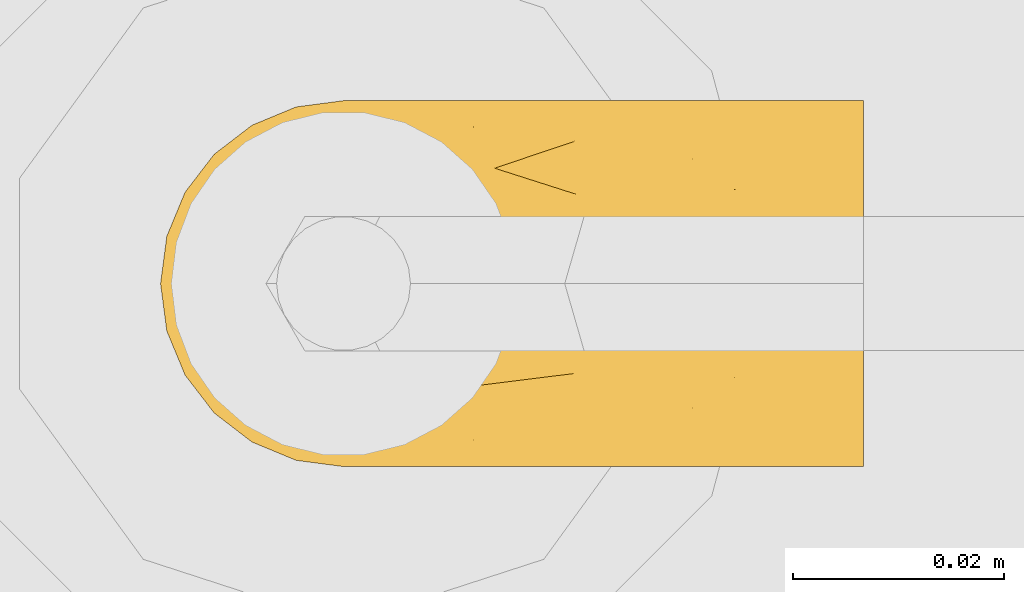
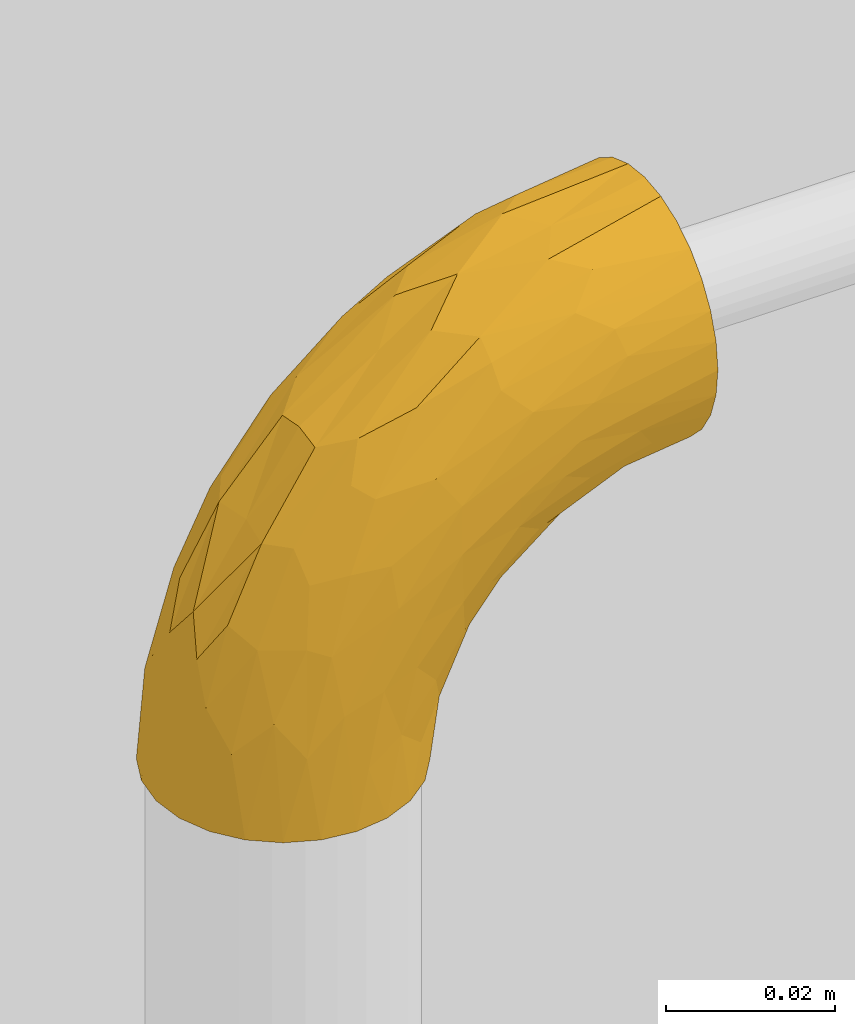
# One storey, part 8 of 32: 1 covering.
"""IFC2X3 building model written with IfcOpenShell, lengths in metres."""

from ifc_helpers import new_model, entity, si_unit, converted_unit, derived_unit, direction, frame, origin, place, context, subcontext, project, spatial, faceted_brep, material, type_object, element, save


model = new_model("IFC2X3")

# Units and contexts
model_context = context("Model", 3, precision=1e-05, world=origin(), true_north=direction((6.123031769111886e-17, 1.0)))
body_context = subcontext(model_context, "Body", "Model", "MODEL_VIEW")
ifc_project = project(units=[si_unit("LENGTHUNIT", "METRE"), si_unit("AREAUNIT", "SQUARE_METRE"), si_unit("VOLUMEUNIT", "CUBIC_METRE"), converted_unit("PLANEANGLEUNIT", "DEGREE", entity("IfcPlaneAngleMeasure", 0.017453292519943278), si_unit("PLANEANGLEUNIT", "RADIAN"), dimensions=[0, 0, 0, 0, 0, 0, 0]), si_unit("MASSUNIT", "GRAM", prefix="KILO"), derived_unit("MASSDENSITYUNIT", [(si_unit("MASSUNIT", "GRAM", prefix="KILO"), 1), (si_unit("LENGTHUNIT", "METRE"), -3)]), derived_unit("IONCONCENTRATIONUNIT", [(si_unit("MASSUNIT", "GRAM", prefix="KILO"), 1), (si_unit("LENGTHUNIT", "METRE"), -3)]), derived_unit("MOMENTOFINERTIAUNIT", [(si_unit("LENGTHUNIT", "METRE"), 4)]), si_unit("TIMEUNIT", "SECOND"), si_unit("FREQUENCYUNIT", "HERTZ"), si_unit("THERMODYNAMICTEMPERATUREUNIT", "DEGREE_CELSIUS"), derived_unit("THERMALTRANSMITTANCEUNIT", [(si_unit("MASSUNIT", "GRAM", prefix="KILO"), 1), (si_unit("THERMODYNAMICTEMPERATUREUNIT", "KELVIN"), -1), (si_unit("TIMEUNIT", "SECOND"), -3)]), derived_unit("THERMALCONDUCTANCEUNIT", [(si_unit("MASSUNIT", "GRAM", prefix="KILO"), 1), (si_unit("THERMODYNAMICTEMPERATUREUNIT", "KELVIN"), -1), (si_unit("TIMEUNIT", "SECOND"), -3), (si_unit("LENGTHUNIT", "METRE"), 1)]), derived_unit("VOLUMETRICFLOWRATEUNIT", [(si_unit("LENGTHUNIT", "METRE", prefix="DECI"), 3), (si_unit("TIMEUNIT", "SECOND"), -1)]), derived_unit("MASSFLOWRATEUNIT", [(si_unit("MASSUNIT", "GRAM", prefix="KILO"), 1), (si_unit("TIMEUNIT", "SECOND"), -1)]), derived_unit("ROTATIONALFREQUENCYUNIT", [(si_unit("TIMEUNIT", "SECOND"), -1)]), si_unit("ELECTRICCURRENTUNIT", "AMPERE"), si_unit("ELECTRICVOLTAGEUNIT", "VOLT"), si_unit("POWERUNIT", "WATT"), si_unit("FORCEUNIT", "NEWTON", prefix="KILO"), si_unit("ILLUMINANCEUNIT", "LUX"), si_unit("LUMINOUSFLUXUNIT", "LUMEN"), si_unit("LUMINOUSINTENSITYUNIT", "CANDELA"), si_unit("ENERGYUNIT", "JOULE"), derived_unit("USERDEFINED", [(si_unit("MASSUNIT", "GRAM", prefix="KILO"), -1), (si_unit("LENGTHUNIT", "METRE"), -2), (si_unit("TIMEUNIT", "SECOND"), 3), (si_unit("LUMINOUSFLUXUNIT", "LUMEN"), 1)]), derived_unit("USERDEFINED", [(si_unit("MASSUNIT", "GRAM", prefix="KILO"), 1), (si_unit("TIMEUNIT", "SECOND"), -3), (si_unit("LENGTHUNIT", "METRE"), 3), (si_unit("ELECTRICCURRENTUNIT", "AMPERE"), -2)]), derived_unit("SOUNDPOWERUNIT", [(si_unit("MASSUNIT", "GRAM", prefix="KILO"), 1), (si_unit("TIMEUNIT", "SECOND"), -3), (si_unit("LENGTHUNIT", "METRE"), 2)]), derived_unit("SOUNDPRESSUREUNIT", [(si_unit("MASSUNIT", "GRAM", prefix="KILO"), 1), (si_unit("LENGTHUNIT", "METRE"), -1), (si_unit("TIMEUNIT", "SECOND"), -2)]), derived_unit("LINEARVELOCITYUNIT", [(si_unit("LENGTHUNIT", "METRE"), 1), (si_unit("TIMEUNIT", "SECOND"), -1)]), si_unit("PRESSUREUNIT", "PASCAL"), derived_unit("USERDEFINED", [(si_unit("MASSUNIT", "GRAM", prefix="KILO"), 1), (si_unit("LENGTHUNIT", "METRE"), -2), (si_unit("TIMEUNIT", "SECOND"), -2)]), derived_unit("LINEARFORCEUNIT", [(si_unit("MASSUNIT", "GRAM", prefix="KILO"), 1), (si_unit("TIMEUNIT", "SECOND"), -2)]), derived_unit("PLANARFORCEUNIT", [(si_unit("MASSUNIT", "GRAM", prefix="KILO"), 1), (si_unit("LENGTHUNIT", "METRE"), -1), (si_unit("TIMEUNIT", "SECOND"), -2)]), derived_unit("SPECIFICHEATCAPACITYUNIT", [(si_unit("THERMODYNAMICTEMPERATUREUNIT", "KELVIN"), -1), (si_unit("LENGTHUNIT", "METRE"), 2), (si_unit("TIMEUNIT", "SECOND"), -2)]), derived_unit("HEATFLUXDENSITYUNIT", [(si_unit("MASSUNIT", "GRAM", prefix="KILO"), 1), (si_unit("TIMEUNIT", "SECOND"), -3)]), derived_unit("HEATINGVALUEUNIT", [(si_unit("LENGTHUNIT", "METRE"), 2), (si_unit("TIMEUNIT", "SECOND"), -2)]), derived_unit("VAPORPERMEABILITYUNIT", [(si_unit("LENGTHUNIT", "METRE"), -1), (si_unit("TIMEUNIT", "SECOND"), 1)]), derived_unit("DYNAMICVISCOSITYUNIT", [(si_unit("MASSUNIT", "GRAM", prefix="KILO"), 1), (si_unit("TIMEUNIT", "SECOND"), -1), (si_unit("LENGTHUNIT", "METRE"), -1)]), derived_unit("THERMALEXPANSIONCOEFFICIENTUNIT", [(si_unit("THERMODYNAMICTEMPERATUREUNIT", "KELVIN"), -1)]), derived_unit("MODULUSOFELASTICITYUNIT", [(si_unit("MASSUNIT", "GRAM", prefix="KILO"), 1), (si_unit("LENGTHUNIT", "METRE"), -1), (si_unit("TIMEUNIT", "SECOND"), -2)]), derived_unit("ISOTHERMALMOISTURECAPACITYUNIT", [(si_unit("MASSUNIT", "GRAM", prefix="KILO"), -1), (si_unit("LENGTHUNIT", "METRE"), 3)]), derived_unit("MOISTUREDIFFUSIVITYUNIT", [(si_unit("TIMEUNIT", "SECOND"), -1), (si_unit("LENGTHUNIT", "METRE"), 2)]), derived_unit("MASSPERLENGTHUNIT", [(si_unit("MASSUNIT", "GRAM", prefix="KILO"), 1), (si_unit("LENGTHUNIT", "METRE"), -1)]), derived_unit("THERMALRESISTANCEUNIT", [(si_unit("MASSUNIT", "GRAM", prefix="KILO"), -1), (si_unit("TIMEUNIT", "SECOND"), 3), (si_unit("THERMODYNAMICTEMPERATUREUNIT", "KELVIN"), 1)]), derived_unit("ACCELERATIONUNIT", [(si_unit("LENGTHUNIT", "METRE"), 1), (si_unit("TIMEUNIT", "SECOND"), -2)]), derived_unit("ANGULARVELOCITYUNIT", [(si_unit("TIMEUNIT", "SECOND"), -1), (si_unit("PLANEANGLEUNIT", "RADIAN"), 1)]), derived_unit("LINEARSTIFFNESSUNIT", [(si_unit("MASSUNIT", "GRAM", prefix="KILO"), 1), (si_unit("TIMEUNIT", "SECOND"), -2)]), derived_unit("WARPINGCONSTANTUNIT", [(si_unit("LENGTHUNIT", "METRE"), 6)]), derived_unit("LINEARMOMENTUNIT", [(si_unit("MASSUNIT", "GRAM", prefix="KILO"), 1), (si_unit("LENGTHUNIT", "METRE"), 1), (si_unit("TIMEUNIT", "SECOND"), -2)]), derived_unit("TORQUEUNIT", [(si_unit("MASSUNIT", "GRAM", prefix="KILO"), 1), (si_unit("LENGTHUNIT", "METRE"), 2), (si_unit("TIMEUNIT", "SECOND"), -2)])], contexts=[model_context])

# Site, building, storey
site_placement = place(None, origin())
site = spatial("IfcSite", under=ifc_project, at=site_placement, Name="Default", CompositionType="ELEMENT")
building_placement = place(site_placement, origin())
building = spatial("IfcBuilding", under=site, at=building_placement, CompositionType="ELEMENT")
storey_placement = place(building_placement, origin())
storey = spatial("IfcBuildingStorey", under=building, at=storey_placement, Name="Niveau 0", CompositionType="ELEMENT", Elevation=-1.949160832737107e-14)

# Covering
ifc_material = material(Name="Matériau du rendu 255-255-255")
covering_type = type_object("IfcCoveringType", Name="Isolation des canalisations:Par défaut", PredefinedType="INSULATION")
covering_placement = place(storey_placement, frame((-14.644246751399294, 2.7665812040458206, 2.3835426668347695)))
element("IfcCovering", 1, at=covering_placement, inside=storey, type_object=covering_type, material=ifc_material, Name="Isolation des canalisations:Par défaut", ObjectType="Isolation des canalisations:Par défaut", PredefinedType="INSULATION", context=body_context, shape_type="Brep", body=[
    faceted_brep([(0.06824527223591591, 0.032507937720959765, 0.061715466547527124), (0.06824527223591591, 0.029760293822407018, 0.06446206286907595), (0.06824527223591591, 0.026470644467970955, 0.0665282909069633), (0.06824527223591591, 0.02280380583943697, 0.0678107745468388), (0.06824527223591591, 0.018945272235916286, 0.06824527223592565), (0.06824527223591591, 0.015082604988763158, 0.06780983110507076), (0.06824527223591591, 0.011414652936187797, 0.06652576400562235), (0.06824527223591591, 0.008125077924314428, 0.06445793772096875), (0.06824527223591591, 0.005378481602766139, 0.06171029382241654), (0.06824527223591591, 0.0033122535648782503, 0.058420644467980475), (0.06824527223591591, 0.002029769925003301, 0.054753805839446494), (0.06824527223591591, 0.0015952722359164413, 0.05089527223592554), (0.06824527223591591, 0.0020307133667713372, 0.04703260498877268), (0.06824527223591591, 0.00331478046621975, 0.04336465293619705), (0.06824527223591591, 0.005382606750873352, 0.04007507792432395), (0.06824527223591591, 0.008130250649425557, 0.03732848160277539), (0.06824527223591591, 0.01141990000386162, 0.03526225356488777), (0.06824527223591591, 0.015086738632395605, 0.03397976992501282), (0.06824527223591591, 0.018945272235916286, 0.03354527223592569), (0.06824527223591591, 0.022807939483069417, 0.03398071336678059), (0.06824527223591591, 0.026475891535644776, 0.035264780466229), (0.06824527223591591, 0.029765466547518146, 0.0373326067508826), (0.06824527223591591, 0.03251206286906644, 0.04008025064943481), (0.06824527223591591, 0.03457829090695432, 0.04336990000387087), (0.06824527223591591, 0.035860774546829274, 0.04703673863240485), (0.06824527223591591, 0.03629527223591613, 0.05089527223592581), (0.06824527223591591, 0.03585983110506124, 0.054757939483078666), (0.06824527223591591, 0.034575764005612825, 0.0584258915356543), (0.035704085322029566, 0.014454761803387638, 0.0015952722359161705), (0.03397081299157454, 0.010270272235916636, 0.0015952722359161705), (0.03121357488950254, 0.006676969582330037, 0.0015952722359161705), (0.027620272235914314, 0.003919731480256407, 0.0015952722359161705), (0.023435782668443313, 0.0021864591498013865, 0.0015952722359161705), (0.01894527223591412, 0.0015952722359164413, 0.0015952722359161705), (0.014454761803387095, 0.0021864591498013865, 0.0015952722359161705), (0.010270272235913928, 0.003919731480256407, 0.0015952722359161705), (0.006676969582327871, 0.006676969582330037, 0.0015952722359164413), (0.0039197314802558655, 0.010270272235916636, 0.0015952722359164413), (0.0021864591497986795, 0.014454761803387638, 0.0015952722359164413), (0.0015952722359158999, 0.018945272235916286, 0.0015952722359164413), (0.0021864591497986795, 0.02343578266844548, 0.0015952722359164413), (0.0039197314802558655, 0.027620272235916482, 0.0015952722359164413), (0.006676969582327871, 0.03121357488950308, 0.0015952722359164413), (0.010270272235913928, 0.033970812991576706, 0.0015952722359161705), (0.014454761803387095, 0.03570408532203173, 0.0015952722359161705), (0.01894527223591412, 0.03629527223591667, 0.0015952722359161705), (0.023435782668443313, 0.03570408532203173, 0.0015952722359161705), (0.027620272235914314, 0.033970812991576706, 0.0015952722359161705), (0.03121357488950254, 0.03121357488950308, 0.0015952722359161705), (0.03397081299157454, 0.027620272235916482, 0.0015952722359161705), (0.035704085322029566, 0.02343578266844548, 0.0015952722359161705), (0.03629527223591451, 0.01894527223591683, 0.0015952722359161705), (0.024367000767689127, 0.03133458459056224, 0.04461060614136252), (0.040880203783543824, 0.0324510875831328, 0.05520607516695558), (0.031240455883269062, 0.03378706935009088, 0.04662716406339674), (0.005317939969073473, 0.022149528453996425, 0.02263520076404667), (0.004958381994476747, 0.018945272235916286, 0.018502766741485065), (0.006668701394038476, 0.018945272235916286, 0.027101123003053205), (0.009728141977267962, 0.028816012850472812, 0.026428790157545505), (0.015760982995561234, 0.03068263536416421, 0.03474610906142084), (0.014206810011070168, 0.03274319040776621, 0.027248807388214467), (0.004776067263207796, 0.02524054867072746, 0.017647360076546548), (0.005987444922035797, 0.029200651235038, 0.0130046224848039), (0.03372303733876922, 0.03568226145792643, 0.04295128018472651), (0.03338490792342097, 0.03629527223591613, 0.036455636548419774), (0.024904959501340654, 0.03597727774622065, 0.031412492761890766), (0.0520130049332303, 0.030752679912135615, 0.061445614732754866), (0.033276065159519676, 0.029890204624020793, 0.053712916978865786), (0.017585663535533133, 0.03581412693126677, 0.018347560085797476), (0.016675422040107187, 0.034392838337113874, 0.026339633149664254), (0.036692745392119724, 0.02316390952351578, 0.059711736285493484), (0.052045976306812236, 0.02435364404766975, 0.06535510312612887), (0.040907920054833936, 0.02745100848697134, 0.059929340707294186), (0.010004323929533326, 0.03226292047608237, 0.017676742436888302), (0.04937897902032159, 0.03629527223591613, 0.04714253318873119), (0.04138194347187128, 0.03629527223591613, 0.04179908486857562), (0.013063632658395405, 0.03478404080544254, 0.013167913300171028), (0.0130975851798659, 0.023959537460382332, 0.037689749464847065), (0.021058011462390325, 0.02277267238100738, 0.048058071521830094), (0.02491877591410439, 0.026249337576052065, 0.050099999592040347), (0.05549234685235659, 0.018945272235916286, 0.06570855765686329), (0.015418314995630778, 0.027542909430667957, 0.03837572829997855), (0.008103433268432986, 0.024608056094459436, 0.028042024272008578), (0.05599549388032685, 0.027861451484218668, 0.06459915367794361), (0.04273942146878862, 0.018945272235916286, 0.06317184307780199), (0.05979152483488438, 0.03629527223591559, 0.04921371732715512), (0.05151216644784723, 0.03591493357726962, 0.051792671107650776), (0.05592114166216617, 0.033311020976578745, 0.05932311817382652), (0.024527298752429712, 0.03484866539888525, 0.0369675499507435), (0.0564246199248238, 0.035026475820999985, 0.0561420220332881), (0.02004693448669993, 0.0330855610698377, 0.03623295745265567), (0.043903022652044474, 0.03479750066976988, 0.052418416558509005), (0.028041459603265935, 0.03629527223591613, 0.02845860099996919), (0.022698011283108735, 0.03629527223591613, 0.02046156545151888), (0.05881212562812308, 0.03629527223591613, 0.0490189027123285), (0.03192801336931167, 0.018945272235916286, 0.05594789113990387), (0.02253776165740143, 0.028838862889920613, 0.045751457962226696), (0.013892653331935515, 0.018945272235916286, 0.03791253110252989), (0.02062682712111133, 0.03629527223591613, 0.010049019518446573), (0.02111660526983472, 0.018945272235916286, 0.048723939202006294), (0.06012681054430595, 0.028741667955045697, 0.03562046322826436), (0.025545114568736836, 0.035509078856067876, 0.012762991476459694), (0.038163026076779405, 0.029714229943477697, 0.020812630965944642), (0.0336986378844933, 0.030278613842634, 0.012286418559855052), (0.03585312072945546, 0.03257014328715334, 0.02251144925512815), (0.04758380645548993, 0.035962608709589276, 0.042603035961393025), (0.05793604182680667, 0.035754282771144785, 0.04539970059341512), (0.05179104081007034, 0.03464339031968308, 0.04014164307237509), (0.02744829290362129, 0.03590367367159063, 0.022043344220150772), (0.031246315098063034, 0.033786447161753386, 0.017602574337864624), (0.05558856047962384, 0.021988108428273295, 0.03122407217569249), (0.06109218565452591, 0.023813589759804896, 0.033449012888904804), (0.059961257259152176, 0.018945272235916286, 0.03132557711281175), (0.04550906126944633, 0.03344556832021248, 0.034228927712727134), (0.041544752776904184, 0.035636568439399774, 0.03727571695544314), (0.02949372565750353, 0.03321547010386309, 0.008887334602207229), (0.03852252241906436, 0.022634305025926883, 0.014357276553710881), (0.038514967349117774, 0.018945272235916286, 0.009879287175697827), (0.03659242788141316, 0.021964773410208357, 0.007585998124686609), (0.05797141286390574, 0.03195826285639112, 0.03799786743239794), (0.05019700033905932, 0.030390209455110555, 0.03304464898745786), (0.03603849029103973, 0.025154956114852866, 0.009229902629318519), (0.038175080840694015, 0.02650292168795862, 0.016770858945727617), (0.06050425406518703, 0.03413176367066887, 0.041766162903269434), (0.04525391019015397, 0.02725796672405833, 0.02673949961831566), (0.04141450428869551, 0.0314395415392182, 0.02745178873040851), (0.05227027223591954, 0.018945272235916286, 0.029264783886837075), (0.04415845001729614, 0.02282584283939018, 0.02324953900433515), (0.04057576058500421, 0.018945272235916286, 0.01757027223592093), (0.034070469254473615, 0.03537608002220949, 0.028875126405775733), (0.05464264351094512, 0.02543466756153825, 0.03189092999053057), (0.04949521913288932, 0.023656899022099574, 0.02826597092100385), (0.04642301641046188, 0.018945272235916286, 0.023417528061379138), (0.03870099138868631, 0.0338502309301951, 0.029179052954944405), (0.033698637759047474, 0.00761193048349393, 0.012286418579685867), (0.060126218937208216, 0.00915422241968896, 0.03561656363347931), (0.05796574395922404, 0.0059365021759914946, 0.03799129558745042), (0.036592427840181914, 0.01592577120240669, 0.007585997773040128), (0.047594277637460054, 0.0019307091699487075, 0.042592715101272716), (0.04138194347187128, 0.0015952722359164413, 0.04179908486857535), (0.04154972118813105, 0.002261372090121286, 0.037246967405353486), (0.05019606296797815, 0.007507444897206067, 0.03303691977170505), (0.04141450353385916, 0.006451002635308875, 0.027451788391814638), (0.03870907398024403, 0.004039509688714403, 0.02918968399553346), (0.035853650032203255, 0.005316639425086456, 0.02252106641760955), (0.061095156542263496, 0.014084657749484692, 0.033447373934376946), (0.03407046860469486, 0.0025144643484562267, 0.028875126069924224), (0.027448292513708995, 0.0019868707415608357, 0.022043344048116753), (0.031246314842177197, 0.004104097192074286, 0.017602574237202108), (0.025545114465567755, 0.002381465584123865, 0.012762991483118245), (0.020626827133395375, 0.0015952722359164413, 0.010049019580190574), (0.06049677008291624, 0.003761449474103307, 0.041759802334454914), (0.05793180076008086, 0.002137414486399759, 0.04539407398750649), (0.05177761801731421, 0.003249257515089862, 0.04013105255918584), (0.036038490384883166, 0.012735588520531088, 0.009229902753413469), (0.029493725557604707, 0.004675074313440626, 0.008887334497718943), (0.04552472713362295, 0.004452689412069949, 0.03422554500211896), (0.038522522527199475, 0.015256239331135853, 0.01435727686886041), (0.04948512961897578, 0.014235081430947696, 0.028258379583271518), (0.04523640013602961, 0.01064723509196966, 0.02671264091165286), (0.04414337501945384, 0.015070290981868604, 0.023230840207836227), (0.05558905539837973, 0.01590572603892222, 0.031223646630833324), (0.05465211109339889, 0.012461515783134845, 0.031892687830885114), (0.03817508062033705, 0.011387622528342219, 0.016770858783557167), (0.05979152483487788, 0.0015952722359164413, 0.049213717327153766), (0.05881212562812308, 0.0015952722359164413, 0.0490189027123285), (0.04937897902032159, 0.0015952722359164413, 0.04714253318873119), (0.022698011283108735, 0.0015952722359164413, 0.020461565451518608), (0.028041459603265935, 0.0015952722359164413, 0.02845860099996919), (0.03815555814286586, 0.008173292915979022, 0.02080538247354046), (0.03338490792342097, 0.0015952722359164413, 0.036455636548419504), (0.014201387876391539, 0.005144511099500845, 0.027228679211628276), (0.01576489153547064, 0.007214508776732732, 0.03476363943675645), (0.009728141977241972, 0.009074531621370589, 0.026428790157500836), (0.005317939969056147, 0.01574101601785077, 0.022635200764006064), (0.008103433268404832, 0.013282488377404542, 0.028042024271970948), (0.013097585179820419, 0.013931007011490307, 0.03768974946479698), (0.040915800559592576, 0.01043424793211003, 0.05992974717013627), (0.05204814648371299, 0.013532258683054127, 0.06535408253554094), (0.03668245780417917, 0.014723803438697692, 0.05970534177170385), (0.04088029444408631, 0.005435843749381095, 0.05520108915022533), (0.03122945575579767, 0.004097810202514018, 0.04660600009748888), (0.04392259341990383, 0.0030906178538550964, 0.05242173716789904), (0.0337578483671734, 0.002206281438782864, 0.04297076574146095), (0.01758332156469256, 0.0020764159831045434, 0.01834045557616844), (0.016675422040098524, 0.003497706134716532, 0.02633963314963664), (0.020027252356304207, 0.004809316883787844, 0.03621599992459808), (0.013061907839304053, 0.0031070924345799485, 0.013166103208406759), (0.004776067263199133, 0.01264999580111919, 0.01764736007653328), (0.05599323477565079, 0.010023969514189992, 0.06459558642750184), (0.005987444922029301, 0.008689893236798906, 0.013004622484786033), (0.015398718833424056, 0.010351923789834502, 0.038351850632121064), (0.010004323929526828, 0.005627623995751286, 0.017676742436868), (0.055922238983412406, 0.004576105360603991, 0.05931818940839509), (0.05201579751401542, 0.007133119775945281, 0.061441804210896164), (0.051515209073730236, 0.001974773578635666, 0.05178953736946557), (0.04090335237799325, 0.007727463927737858, 0.05783699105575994), (0.02436700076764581, 0.006555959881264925, 0.044610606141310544), (0.056683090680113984, 0.002851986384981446, 0.05616681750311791), (0.021070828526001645, 0.015114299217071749, 0.048069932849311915), (0.024916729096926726, 0.01163263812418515, 0.05009283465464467), (0.024899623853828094, 0.0019147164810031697, 0.031417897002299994), (0.024551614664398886, 0.003047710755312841, 0.037018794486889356), (0.022503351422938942, 0.00904990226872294, 0.04571403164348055), (0.031537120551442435, 0.009268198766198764, 0.05365558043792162)], [[[0, 1, 2, 3, 4, 5, 6, 7, 8, 9, 10, 11, 12, 13, 14, 15, 16, 17, 18, 19, 20, 21, 22, 23, 24, 25, 26, 27]], [[28, 29, 30, 31, 32, 33, 34, 35, 36, 37, 38, 39, 40, 41, 42, 43, 44, 45, 46, 47, 48, 49, 50, 51]], [[52, 53, 54]], [[55, 56, 57]], [[58, 59, 60]], [[61, 58, 62]], [[63, 64, 65]], [[61, 41, 40]], [[66, 53, 67]], [[68, 69, 65]], [[70, 71, 72]], [[62, 73, 42]], [[63, 74, 75, 64]], [[45, 44, 68]], [[69, 68, 76]], [[77, 78, 79]], [[42, 73, 43]], [[80, 4, 3]], [[58, 81, 59]], [[61, 55, 82]], [[71, 2, 83]], [[84, 71, 70]], [[83, 2, 1]], [[3, 71, 80]], [[71, 84, 80]], [[77, 55, 57]], [[2, 71, 3]], [[0, 66, 1]], [[26, 25, 85]], [[63, 86, 74]], [[66, 87, 53]], [[62, 42, 41]], [[63, 65, 88]], [[26, 86, 89]], [[40, 56, 55]], [[73, 60, 76]], [[83, 72, 71]], [[90, 59, 52]], [[40, 55, 61]], [[87, 66, 0]], [[1, 66, 83]], [[87, 0, 27]], [[72, 83, 66]], [[91, 89, 86]], [[53, 87, 91]], [[54, 53, 91]], [[67, 53, 52]], [[63, 54, 91]], [[54, 88, 90]], [[91, 87, 89]], [[65, 64, 92, 93]], [[86, 63, 91]], [[86, 85, 94, 74]], [[26, 85, 86]], [[70, 72, 79]], [[78, 95, 70]], [[67, 79, 72]], [[59, 81, 96]], [[40, 39, 56]], [[77, 57, 97]], [[82, 55, 77]], [[87, 27, 89]], [[26, 89, 27]], [[81, 82, 77]], [[58, 61, 82]], [[68, 65, 93]], [[88, 65, 69]], [[68, 93, 98, 45]], [[76, 68, 44]], [[90, 88, 69]], [[54, 63, 88]], [[60, 90, 69]], [[54, 90, 52]], [[59, 90, 60]], [[82, 81, 58]], [[77, 79, 81]], [[96, 81, 79]], [[44, 43, 76]], [[73, 76, 43]], [[61, 62, 41]], [[73, 62, 58]], [[76, 60, 69]], [[60, 73, 58]], [[70, 79, 78]], [[95, 84, 70]], [[67, 52, 96]], [[78, 97, 99]], [[66, 67, 72]], [[97, 78, 77]], [[78, 99, 95]], [[67, 96, 79]], [[59, 96, 52]], [[100, 21, 20]], [[93, 101, 98]], [[102, 103, 104]], [[98, 101, 46]], [[105, 106, 107]], [[108, 109, 101]], [[110, 111, 112]], [[92, 108, 93]], [[113, 114, 107]], [[47, 115, 48]], [[116, 117, 118]], [[49, 48, 103]], [[119, 100, 120]], [[100, 119, 21]], [[121, 122, 116]], [[119, 120, 113]], [[103, 122, 121]], [[115, 103, 48]], [[119, 107, 123]], [[123, 23, 22]], [[118, 51, 50]], [[23, 106, 24]], [[106, 74, 94]], [[46, 101, 47]], [[115, 101, 109]], [[123, 106, 23]], [[124, 125, 120]], [[19, 18, 112]], [[119, 22, 21]], [[110, 112, 126]], [[111, 20, 19]], [[114, 75, 105]], [[116, 127, 128]], [[122, 127, 116]], [[64, 129, 92]], [[106, 94, 24]], [[111, 100, 20]], [[109, 129, 104]], [[130, 124, 120]], [[130, 120, 100]], [[120, 125, 113]], [[130, 110, 131]], [[102, 124, 122]], [[121, 118, 50]], [[24, 94, 85, 25]], [[128, 117, 116]], [[127, 122, 124]], [[131, 124, 130]], [[131, 132, 127]], [[119, 123, 22]], [[106, 123, 107]], [[108, 101, 93]], [[113, 107, 119]], [[129, 133, 104]], [[125, 133, 113]], [[113, 133, 114]], [[129, 64, 114]], [[75, 74, 105]], [[92, 129, 108]], [[109, 108, 129]], [[46, 45, 98]], [[111, 110, 130]], [[126, 131, 110]], [[124, 131, 127]], [[111, 130, 100]], [[112, 111, 19]], [[50, 49, 121]], [[103, 121, 49]], [[101, 115, 47]], [[103, 115, 109]], [[116, 118, 121]], [[51, 118, 117]], [[133, 125, 104]], [[114, 133, 129]], [[102, 104, 125]], [[103, 109, 104]], [[124, 102, 125]], [[103, 102, 122]], [[114, 64, 75]], [[106, 105, 74]], [[107, 114, 105]], [[132, 131, 126]], [[132, 128, 127]], [[30, 29, 134]], [[135, 15, 136]], [[51, 117, 137]], [[138, 139, 140]], [[141, 135, 136]], [[142, 143, 144]], [[145, 112, 17]], [[146, 147, 148]], [[149, 150, 32]], [[151, 152, 153]], [[134, 29, 154]], [[155, 31, 30]], [[15, 135, 16]], [[149, 32, 31]], [[156, 141, 136]], [[157, 117, 128]], [[158, 159, 160]], [[126, 112, 161]], [[161, 145, 162]], [[155, 149, 31]], [[154, 28, 137]], [[14, 151, 136]], [[15, 14, 136]], [[145, 16, 135]], [[135, 141, 162]], [[14, 13, 151]], [[13, 12, 152]], [[146, 144, 143]], [[143, 140, 146]], [[159, 163, 160]], [[12, 11, 164, 165]], [[12, 165, 152]], [[138, 152, 166]], [[141, 159, 162]], [[155, 134, 148]], [[112, 18, 17]], [[167, 147, 168]], [[144, 169, 142]], [[145, 135, 162]], [[156, 136, 153]], [[141, 142, 159]], [[169, 159, 142]], [[157, 160, 163]], [[157, 128, 160]], [[166, 152, 165]], [[154, 137, 157]], [[157, 163, 154]], [[158, 132, 126]], [[126, 161, 158]], [[152, 151, 13]], [[136, 151, 153]], [[168, 146, 170]], [[149, 147, 167]], [[156, 142, 141]], [[140, 156, 153]], [[143, 142, 156]], [[140, 153, 138]], [[170, 146, 140]], [[148, 147, 149]], [[146, 168, 147]], [[150, 149, 167]], [[150, 33, 32]], [[158, 161, 162]], [[159, 158, 162]], [[160, 132, 158]], [[112, 145, 161]], [[16, 145, 17]], [[134, 154, 163]], [[29, 28, 154]], [[134, 155, 30]], [[149, 155, 148]], [[51, 137, 28]], [[157, 137, 117]], [[140, 143, 156]], [[144, 146, 148]], [[148, 134, 144]], [[169, 134, 163]], [[134, 169, 144]], [[159, 169, 163]], [[139, 138, 166]], [[139, 170, 140]], [[152, 138, 153]], [[160, 128, 132]], [[171, 172, 173]], [[174, 175, 176]], [[177, 178, 179]], [[180, 181, 182]], [[183, 182, 181]], [[184, 33, 150, 167]], [[171, 185, 186]], [[184, 187, 34]], [[174, 38, 188]], [[177, 189, 178]], [[36, 190, 37]], [[176, 175, 191]], [[192, 36, 35]], [[37, 190, 188]], [[174, 176, 57]], [[193, 8, 194]], [[183, 166, 195]], [[175, 174, 188]], [[195, 166, 165, 164]], [[56, 174, 57]], [[7, 194, 8]], [[196, 197, 180]], [[179, 178, 84]], [[9, 193, 198]], [[8, 193, 9]], [[190, 192, 173]], [[179, 95, 199]], [[189, 6, 178]], [[193, 180, 182]], [[6, 189, 7]], [[5, 80, 178]], [[177, 179, 200]], [[201, 170, 183]], [[177, 194, 189]], [[37, 188, 38]], [[178, 6, 5]], [[194, 177, 196]], [[164, 11, 10]], [[187, 192, 35]], [[167, 201, 184]], [[194, 7, 189]], [[180, 193, 194]], [[198, 182, 195]], [[196, 180, 194]], [[181, 180, 197]], [[185, 202, 186]], [[201, 167, 168, 170]], [[201, 202, 185]], [[183, 170, 139, 166]], [[195, 182, 183]], [[164, 10, 195]], [[198, 10, 9]], [[199, 95, 99]], [[200, 199, 176]], [[191, 173, 172]], [[200, 203, 204]], [[174, 56, 38]], [[56, 39, 38]], [[199, 97, 176]], [[182, 198, 193]], [[10, 198, 195]], [[188, 173, 175]], [[191, 175, 173]], [[202, 201, 183]], [[184, 201, 185]], [[187, 184, 185]], [[33, 184, 34]], [[183, 181, 202]], [[186, 181, 197]], [[181, 186, 202]], [[186, 197, 172]], [[191, 203, 200]], [[171, 173, 192]], [[203, 172, 197]], [[200, 176, 191]], [[187, 185, 171]], [[35, 34, 187]], [[192, 190, 36]], [[188, 190, 173]], [[172, 171, 186]], [[187, 171, 192]], [[179, 84, 95]], [[80, 5, 4]], [[80, 84, 178]], [[97, 57, 176]], [[177, 200, 204]], [[179, 199, 200]], [[97, 199, 99]], [[172, 203, 191]], [[204, 197, 196]], [[197, 204, 203]], [[177, 204, 196]]]),
])

save(model, "model.ifc")
